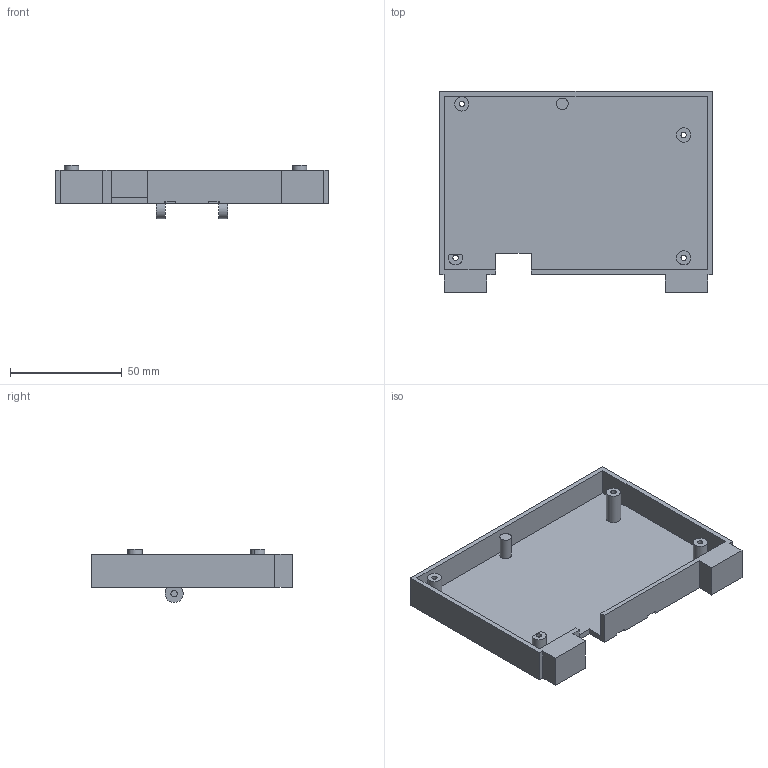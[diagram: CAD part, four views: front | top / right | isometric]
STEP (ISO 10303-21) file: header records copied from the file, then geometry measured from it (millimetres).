
FILE_DESCRIPTION(('Open CASCADE Model'),'2;1');
FILE_NAME('Open CASCADE Shape Model','2026-09-24T16:47:18',('Author'),( 'Open CASCADE'),'Open CASCADE STEP processor 8.0','Open CASCADE 8.0' ,'Unknown');
FILE_SCHEMA(('AP242_MANAGED_MODEL_BASED_3D_ENGINEERING_MIM_LF {1 0 10303 442 1 1 4 }' ));
Length unit declared in the file: millimetre
Products named in the file (1): Open CASCADE STEP translator 8.0 3
Bounding box: 122 x 90 x 23.79 mm (x, y, z)
Volume: 41781.4 mm3; surface area: 33605 mm2
Topology: 1 solids, 1 shells, 67 faces, 162 edges, 108 vertices
Faces by surface type: plane 50, cylinder 17
Full cylindrical faces by diameter (mm): 2.4 x4, 2.9 x2, 4.6 x4, 5.2 x1, 6.4 x3
Entity records: 4089 total; most frequent: CARTESIAN_POINT 668, DIRECTION 659, LINE 410, VECTOR 410, ORIENTED_EDGE 324, PCURVE 324, DEFINITIONAL_REPRESENTATION 324, EDGE_CURVE 162
